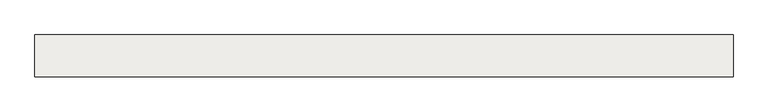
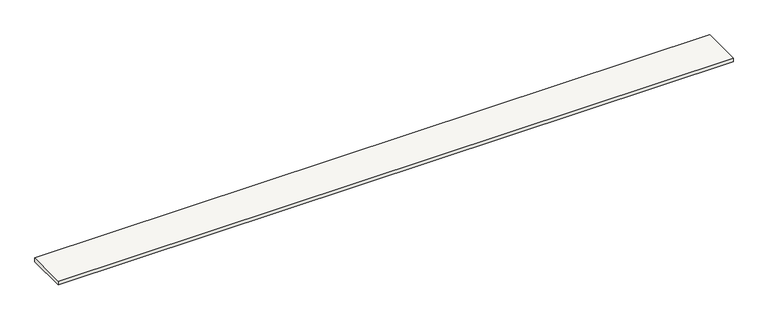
"""IFC4 building model written with IfcOpenShell, lengths in millimetres: slab geometry, Sol-02 - Tablette bois 2cm."""

import ifcopenshell
import ifcopenshell.guid

model = None  # the IFC model being written
_history = None  # IfcOwnerHistory: only IFC2X3 demands one
_inside = {}  # id of a spatial element -> (the spatial element, [elements in it])
_under = {}  # id of a project, library or spatial element -> (it, [spatial elements below it])
_declared = {}  # id of a project -> (the project, [libraries it declares])
_typed = {}  # id of a type object -> (the type object, [elements of that type])
_made_of = {}  # id of a material, layer set ... -> (it, [elements and type objects made of it])


def new_model(schema):
    """Start an empty IFC model of exactly this schema.

    Asked for "IFC4X3", IfcOpenShell would pick the latest addendum, in which some entities
    have other attributes; the version numbers below select the first issue.
    IFC2X3 requires an IfcOwnerHistory on every rooted entity: one is made here for all.
    """
    global model, _history
    if schema == "IFC4X3":
        model = ifcopenshell.file(schema_version=(4, 3, 0, 0))
    else:
        model = ifcopenshell.file(schema=schema)
    _inside.clear()
    _under.clear()
    _declared.clear()
    _typed.clear()
    _made_of.clear()
    _history = None
    if model.schema == "IFC2X3":
        org = make("IfcOrganization", Name="unknown")
        user = make(
            "IfcPersonAndOrganization",
            ThePerson=make("IfcPerson", FamilyName="unknown"),
            TheOrganization=org,
        )
        app = make(
            "IfcApplication",
            ApplicationDeveloper=org,
            Version="unknown",
            ApplicationFullName="unknown",
            ApplicationIdentifier="unknown",
        )
        _history = make(
            "IfcOwnerHistory",
            OwningUser=user,
            OwningApplication=app,
            ChangeAction="ADDED",
            CreationDate=0,
        )
    return model


def make(cls, **values):
    """One entity of the class cls with the attributes given. An attribute that is None is left unset."""
    return model.create_entity(
        cls, **{name: value for name, value in values.items() if value is not None}
    )


def rooted(cls, **values):
    """An entity with a GlobalId (a new one), such as an element, a storey or a relation."""
    return make(cls, GlobalId=ifcopenshell.guid.new(), OwnerHistory=_history, **values)


def si_unit(unit_type, name, prefix=None):
    """IfcSIUnit, for example si_unit("LENGTHUNIT", "METRE", prefix="MILLI")."""
    return make("IfcSIUnit", UnitType=unit_type, Prefix=prefix, Name=name)


def assignment(units):
    """IfcUnitAssignment: the units of a project."""
    return None if units is None else make("IfcUnitAssignment", Units=units)


def point(xyz):
    """IfcCartesianPoint."""
    return None if xyz is None else make("IfcCartesianPoint", Coordinates=xyz)


def direction(xyz):
    """IfcDirection."""
    return None if xyz is None else make("IfcDirection", DirectionRatios=xyz)


def frame(location, z_axis=None, x_axis=None):
    """IfcAxis2Placement3D, a coordinate frame: its origin and axes. An axis left out is left unset."""
    return make(
        "IfcAxis2Placement3D",
        Location=point(location),
        Axis=direction(z_axis),
        RefDirection=direction(x_axis),
    )


def origin():
    """The frame at (0, 0, 0) with its axes left unset."""
    return frame((0.0, 0.0, 0.0))


def origin_with_axes():
    """The frame at (0, 0, 0) with the z axis (0, 0, 1) and the x axis (1, 0, 0) written out."""
    return frame((0.0, 0.0, 0.0), z_axis=(0.0, 0.0, 1.0), x_axis=(1.0, 0.0, 0.0))


def place(relative_to, where):
    """IfcLocalPlacement: puts the frame where relative to a parent placement (None: the world)."""
    return make(
        "IfcLocalPlacement", PlacementRelTo=relative_to, RelativePlacement=where
    )


def context(
    kind, dimensions, precision=None, world=None, true_north=None, identifier=None
):
    """IfcGeometricRepresentationContext, for example the 3D "Model" context."""
    return make(
        "IfcGeometricRepresentationContext",
        ContextIdentifier=identifier,
        ContextType=kind,
        CoordinateSpaceDimension=dimensions,
        Precision=precision,
        WorldCoordinateSystem=world,
        TrueNorth=true_north,
    )


def project(units=None, contexts=None):
    """IfcProject with its units and contexts."""
    return rooted(
        "IfcProject",
        Name="project",
        RepresentationContexts=contexts,
        UnitsInContext=assignment(units),
    )


def spatial(cls, under=None, at=None, **own):
    """A site, building, storey or space (cls), placed at a placement, below another one or the project."""
    s = rooted(cls, ObjectPlacement=at, **own)
    if under is not None:
        _under.setdefault(under.id(), (under, []))[1].append(s)
    return s


def polyline(points):
    """IfcPolyline through the points."""
    return make("IfcPolyline", Points=[point(p) for p in points])


def outline(outer, holes=None, kind="AREA"):
    """IfcArbitraryClosedProfileDef: a profile drawn as a closed curve; with holes, ...WithVoids."""
    if holes is None:
        return make("IfcArbitraryClosedProfileDef", ProfileType=kind, OuterCurve=outer)
    return make(
        "IfcArbitraryProfileDefWithVoids",
        ProfileType=kind,
        OuterCurve=outer,
        InnerCurves=holes,
    )


def extrude(swept, where, along, depth):
    """IfcExtrudedAreaSolid: the profile swept, set in the frame where, extruded along a direction by depth."""
    return make(
        "IfcExtrudedAreaSolid",
        SweptArea=swept,
        Position=where,
        ExtrudedDirection=direction(along),
        Depth=depth,
    )


def shape(context_of_items, identifier, shape_type, items):
    """IfcShapeRepresentation: the items that make up one representation, for example the "Body"."""
    return make(
        "IfcShapeRepresentation",
        ContextOfItems=context_of_items,
        RepresentationIdentifier=identifier,
        RepresentationType=shape_type,
        Items=items,
    )


def source(mapping_origin, context_of_items, identifier, shape_type, items):
    """IfcRepresentationMap: a shape defined once, which mapped items show again and again."""
    return make(
        "IfcRepresentationMap",
        MappingOrigin=mapping_origin,
        MappedRepresentation=shape(context_of_items, identifier, shape_type, items),
    )


def transform(
    local_origin,
    x_axis=None,
    y_axis=None,
    z_axis=None,
    scale=None,
    scale2=None,
    scale3=None,
    uniform=True,
):
    """IfcCartesianTransformationOperator3D, or its non-uniform kind. x_axis, y_axis, z_axis: its Axis1, 2, 3."""
    if uniform:
        return make(
            "IfcCartesianTransformationOperator3D",
            Axis1=direction(x_axis),
            Axis2=direction(y_axis),
            LocalOrigin=point(local_origin),
            Scale=scale,
            Axis3=direction(z_axis),
        )
    return make(
        "IfcCartesianTransformationOperator3DnonUniform",
        Axis1=direction(x_axis),
        Axis2=direction(y_axis),
        LocalOrigin=point(local_origin),
        Scale=scale,
        Axis3=direction(z_axis),
        Scale2=scale2,
        Scale3=scale3,
    )


def mapped(mapping_source, mapping_target):
    """IfcMappedItem: shows the shape of a source again, moved by a transform."""
    return make(
        "IfcMappedItem", MappingSource=mapping_source, MappingTarget=mapping_target
    )


def made_of(thing, what):
    """Note that an element or type object is made of a material, layer set ...; save() writes the relation."""
    if what is not None:
        _made_of.setdefault(what.id(), (what, []))[1].append(thing)
    return thing


def element(
    cls,
    number,
    at=None,
    inside=None,
    cuts=None,
    type_object=None,
    material=None,
    context=None,
    identifier="Body",
    shape_type=None,
    held_by="IfcProductDefinitionShape",
    body=None,
    shapes=None,
    **own,
):
    """One element of the class cls, such as IfcWall. Its Tag is "e" and its number.

    at: its placement. inside: the storey or other place that contains it. cuts: it is an
    opening in that element (IfcRelVoidsElement). A single representation is given by context,
    identifier, shape_type and body (its items); several are given by shapes. held_by: the class
    of the entity that holds the representations. save() writes the other relations.
    """
    e = rooted(cls, Tag="e%d" % number, ObjectPlacement=at, **own)
    if body is not None:
        shapes = [shape(context, identifier, shape_type, body)]
    if shapes is not None:
        e.Representation = make(held_by, Representations=shapes)
    if inside is not None:
        _inside.setdefault(inside.id(), (inside, []))[1].append(e)
    if cuts is not None:
        rooted(
            "IfcRelVoidsElement", RelatingBuildingElement=cuts, RelatedOpeningElement=e
        )
    if type_object is not None:
        _typed.setdefault(type_object.id(), (type_object, []))[1].append(e)
    return made_of(e, material)


def aggregate(whole, parts):
    """IfcRelAggregates: a whole, such as a stair, and the parts it consists of."""
    return rooted("IfcRelAggregates", RelatingObject=whole, RelatedObjects=parts)


def save(model, path):
    """Write the relations noted so far, then the file.

    IfcRelAggregates (storeys below a building ...), IfcRelContainedInSpatialStructure (elements
    in a storey), IfcRelDefinesByType, IfcRelAssociatesMaterial and IfcRelDeclares: one each for
    every whole, place, type object, material and project.
    """
    for whole, parts in _under.values():
        aggregate(whole, parts)
    for where, things in _inside.values():
        rooted(
            "IfcRelContainedInSpatialStructure",
            RelatedElements=things,
            RelatingStructure=where,
        )
    for kind, things in _typed.values():
        rooted("IfcRelDefinesByType", RelatedObjects=things, RelatingType=kind)
    for what, things in _made_of.values():
        rooted("IfcRelAssociatesMaterial", RelatedObjects=things, RelatingMaterial=what)
    for by, libraries in _declared.values():
        rooted("IfcRelDeclares", RelatingContext=by, RelatedDefinitions=libraries)
    model.write(path)


def slab_44118ae5(model_context):
    return source(origin(), model_context, "Body", "SweptSolid", [
        extrude(outline(polyline([(13097.0000007, 11300.0), (13097.0000007, 11100.0), (9746.9983601, 11100.0), (9746.9983601, 11300.0), (13097.0000007, 11300.0)])), origin_with_axes(), (0.0, 0.0, 1.0), 20.0),
    ])


if __name__ == "__main__":
    model = new_model("IFC4")
    model_context = context("Model", 3, world=origin())
    ifc_project = project(units=[si_unit("LENGTHUNIT", "METRE", prefix="MILLI")], contexts=[model_context])
    site = spatial("IfcSite", under=ifc_project)
    building = spatial("IfcBuilding", under=site)
    placement = place(None, origin())
    slab_shape = slab_44118ae5(model_context)
    element("IfcSlab", 1, ObjectType="Sol-02 - Tablette bois 2cm", at=placement, inside=building, context=model_context, shape_type="MappedRepresentation", body=[
        mapped(slab_shape, transform((0.0, 0.0, 0.0), x_axis=(1.0, 0.0, 0.0), y_axis=(0.0, 1.0, 0.0), z_axis=(0.0, 0.0, 1.0))),
    ])
    save(model, "model.ifc")
